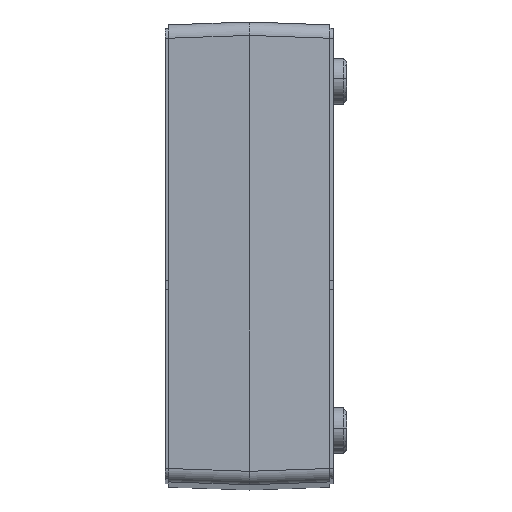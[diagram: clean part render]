
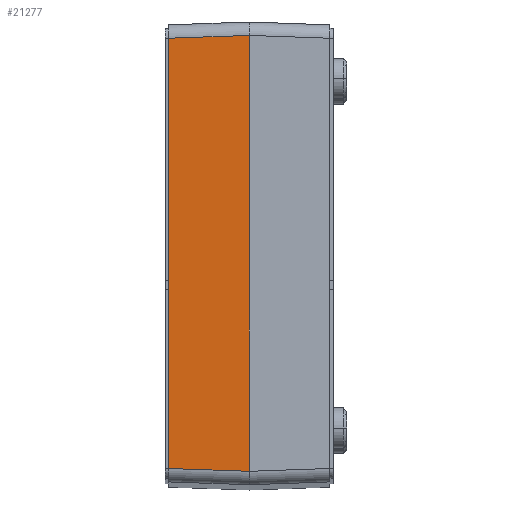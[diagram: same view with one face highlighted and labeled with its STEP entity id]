
A CAD part, top view. The second image highlights one B-rep face of the part: STEP entity #21277.
In plain terms, the highlighted planar face has unit normal (-0.035, 0, 0.999).
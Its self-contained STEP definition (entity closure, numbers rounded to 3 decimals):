
#7733=DIRECTION('',(0.,1.,0.));
#7734=VECTOR('',#7733,64.037);
#7735=CARTESIAN_POINT('',(-12.,1.981,226.017));
#7736=LINE('',#7735,#7734);
#7737=DIRECTION('',(-0.999,-0.035,-0.035));
#7738=VECTOR('',#7737,12.015);
#7739=CARTESIAN_POINT('',(0.,66.438,226.437));
#7740=LINE('',#7739,#7738);
#7741=DIRECTION('',(0.,1.,0.));
#7742=VECTOR('',#7741,64.875);
#7743=CARTESIAN_POINT('',(0.,1.562,226.437));
#7744=LINE('',#7743,#7742);
#7745=DIRECTION('',(-0.999,0.035,-0.035));
#7746=VECTOR('',#7745,12.015);
#7747=CARTESIAN_POINT('',(0.,1.562,226.437));
#7748=LINE('',#7747,#7746);
#9427=CARTESIAN_POINT('',(0.,1.562,226.437));
#9428=CARTESIAN_POINT('',(0.,66.438,226.437));
#9429=VERTEX_POINT('',#9427);
#9430=VERTEX_POINT('',#9428);
#9567=CARTESIAN_POINT('',(-12.,1.981,226.017));
#9568=CARTESIAN_POINT('',(-12.,66.019,226.017));
#9569=VERTEX_POINT('',#9567);
#9570=VERTEX_POINT('',#9568);
#21265=CARTESIAN_POINT('',(-12.5,70.2,226.));
#21266=DIRECTION('',(-0.035,0.,0.999));
#21267=DIRECTION('',(0.,1.,0.));
#21268=AXIS2_PLACEMENT_3D('',#21265,#21266,#21267);
#21269=PLANE('',#21268);
#21270=ORIENTED_EDGE('',*,*,#21097,.T.);
#21271=ORIENTED_EDGE('',*,*,#21087,.F.);
#21272=ORIENTED_EDGE('',*,*,#20973,.F.);
#21274=ORIENTED_EDGE('',*,*,#21273,.T.);
#21275=EDGE_LOOP('',(#21270,#21271,#21272,#21274));
#21276=FACE_OUTER_BOUND('',#21275,.F.);
#20973=EDGE_CURVE('',#9429,#9430,#7744,.T.);
#21087=EDGE_CURVE('',#9430,#9570,#7740,.T.);
#21097=EDGE_CURVE('',#9569,#9570,#7736,.T.);
#21273=EDGE_CURVE('',#9429,#9569,#7748,.T.);
#21277=ADVANCED_FACE('',(#21276),#21269,.T.);
